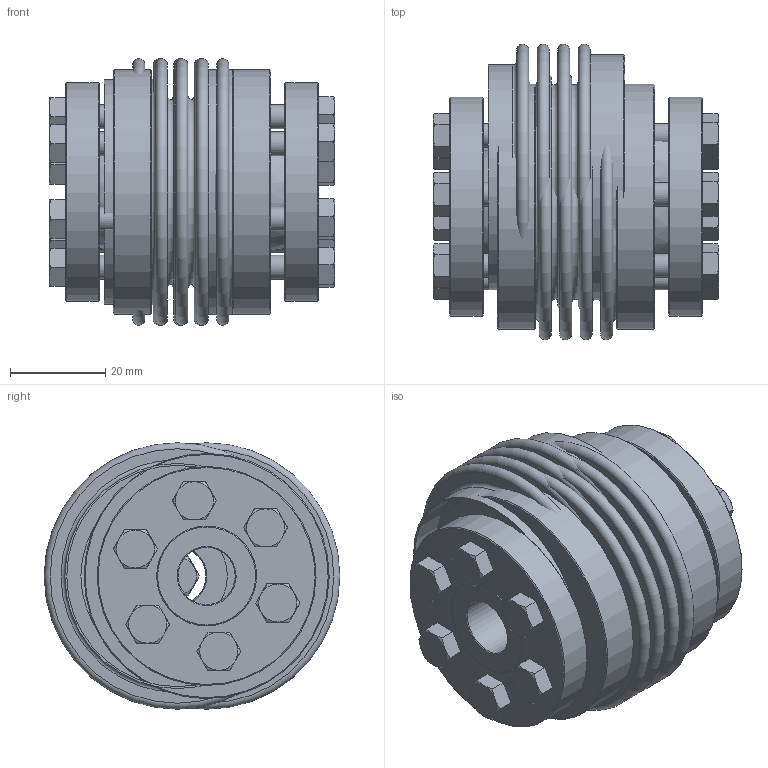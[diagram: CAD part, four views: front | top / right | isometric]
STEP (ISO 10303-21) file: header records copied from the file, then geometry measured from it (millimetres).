
FILE_DESCRIPTION( ( 'Unknown' ), '1' );
FILE_NAME( 'C:/Dokumente und Einstellungen/Sven/Desktop/homepage/cad - homepage/KB6/KB6-30-60.stp', 'Unknown', ( 'Unknown' ), ( 'Unknown' ), 'XStep 1.0', 'Unknown', ' ' );
FILE_SCHEMA( ( 'automotive_design' ) );
Length unit declared in the file: millimetre
Products named in the file (5): Assem1; Hex Screw GradeC_DIN_ISO 4018 - M5 x 16-NN; BA30_Standard; BK30_Standard; DR30_Standard
Bounding box: 60.05 x 62.13 x 55.99 mm (x, y, z)
Volume: 94194.3 mm3; surface area: 88615.4 mm2
Topology: 21 solids, 21 shells, 387 faces, 799 edges, 502 vertices
Faces by surface type: plane 168, cone 118, cylinder 69, torus 32
Full cylindrical faces by diameter (mm): 4.2 x18, 5 x13, 5.5 x18, 12 x3, 24.526 x3, 46 x3, 46.5 x4, 47.3 x4, 51.5 x3
Entity records: 2244 total; most frequent: DIRECTION 396, CARTESIAN_POINT 353, ORIENTED_EDGE 226, AXIS2_PLACEMENT_3D 192, EDGE_LOOP 180, FACE_OUTER_BOUND 122, EDGE_CURVE 113, VERTEX_POINT 101
